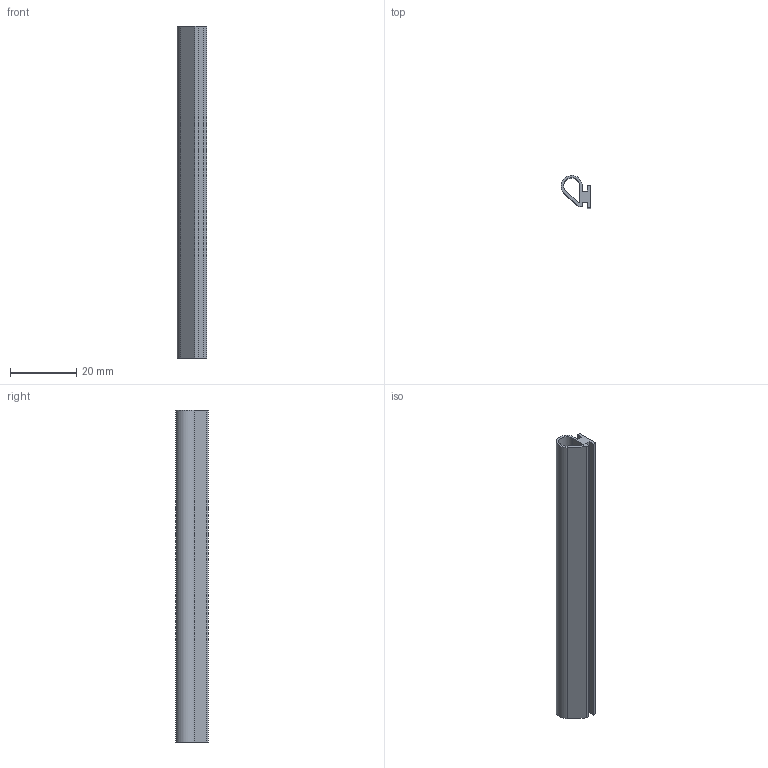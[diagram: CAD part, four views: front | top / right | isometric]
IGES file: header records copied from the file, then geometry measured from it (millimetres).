
Global section: file name: No Iges File Name specified; native system: Autodesk Inventor 2012; preprocessor: AutoDesk Inventor Iges Exporter R2012; author: anna.b; date: 20130718.083621; units: millimetre
Bounding box: 8.87 x 9.8 x 100 mm (x, y, z)
Volume: 2945.4 mm3; surface area: 5798.3 mm2
Topology: 1 solids, 1 shells, 18 faces, 48 edges, 32 vertices
Faces by surface type: plane 15, revolution 2, cylinder 1
